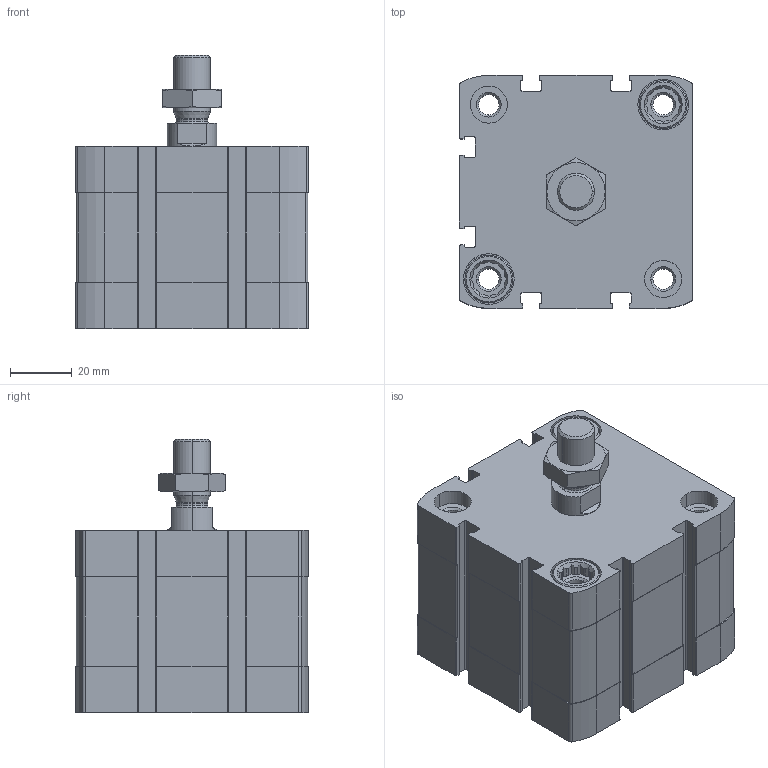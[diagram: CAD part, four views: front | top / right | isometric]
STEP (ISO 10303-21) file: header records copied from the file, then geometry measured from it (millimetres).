
FILE_DESCRIPTION (( 'STEP AP203' ), '1' );
FILE_NAME ('CCN63-10M.STEP', '2017-04-05T16:40:28', ( '' ), ( '' ), 'SwSTEP 2.0', 'SolidWorks 2016', '' );
FILE_SCHEMA (( 'CONFIG_CONTROL_DESIGN' ));
Length unit declared in the file: millimetre
Products named in the file (4): CCN-10----(Z); CCN-10_(KS); _DIN-439-B - M12x1.25(F); CCN63-10M
Assembly tree (3 placements, depth 2):
  CCN63-10M
    CCN-10----(Z)
    CCN-10_(KS)
    _DIN-439-B - M12x1.25(F)
Bounding box: 75.5 x 75.5 x 88.5 mm (x, y, z)
Volume: 283067.5 mm3; surface area: 66447 mm2
Topology: 3 solids, 3 shells, 491 faces, 1318 edges, 864 vertices
Faces by surface type: plane 227, cylinder 212, cone 48, bspline 4
Entity records: 16092 total; most frequent: CARTESIAN_POINT 3139, DIRECTION 2676, ORIENTED_EDGE 2636, EDGE_CURVE 1318, AXIS2_PLACEMENT_3D 979, VERTEX_POINT 864, VECTOR 718, LINE 718
